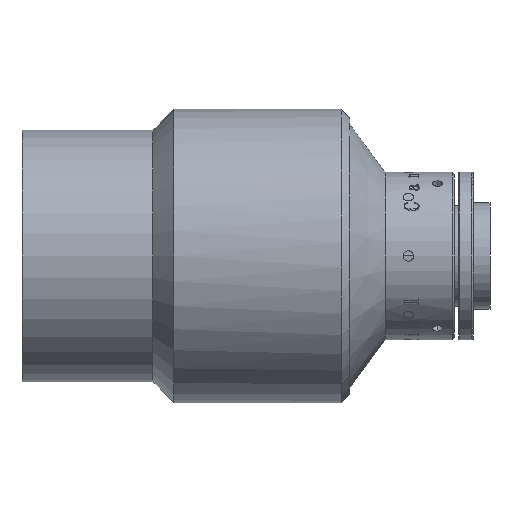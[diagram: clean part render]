
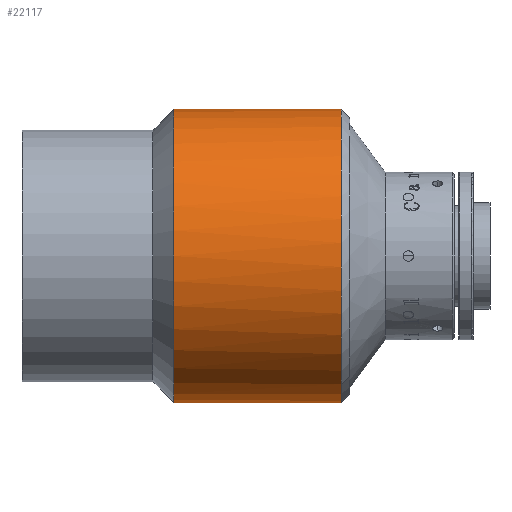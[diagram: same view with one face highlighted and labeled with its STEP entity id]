
A CAD part, front view. The second image highlights one B-rep face of the part: STEP entity #22117.
In plain terms, the highlighted cylindrical face has radius 35 mm (diameter 70 mm), a partial arc.
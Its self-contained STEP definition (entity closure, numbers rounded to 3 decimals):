
#417 = CIRCLE ( 'NONE', #29568, 35. ) ;
#4019 = CIRCLE ( 'NONE', #11865, 35. ) ;
#4592 = AXIS2_PLACEMENT_3D ( 'NONE', #9344, #26214, #11754 ) ;
#5998 = ORIENTED_EDGE ( 'NONE', *, *, #13754, .F. ) ;
#6220 = CIRCLE ( 'NONE', #4592, 35. ) ;
#6336 = VERTEX_POINT ( 'NONE', #22452 ) ;
#7451 = CARTESIAN_POINT ( 'NONE',  ( 76.239, 0., -35. ) ) ;
#7611 = VERTEX_POINT ( 'NONE', #17928 ) ;
#8532 = DIRECTION ( 'NONE',  ( -1., 0., 0. ) ) ;
#9344 = CARTESIAN_POINT ( 'NONE',  ( 76.239, 0., 0. ) ) ;
#9617 = FACE_OUTER_BOUND ( 'NONE', #30757, .T. ) ;
#9991 = VECTOR ( 'NONE', #14634, 1000. ) ;
#10040 = CARTESIAN_POINT ( 'NONE',  ( -61.601, 0., 0. ) ) ;
#10649 = AXIS2_PLACEMENT_3D ( 'NONE', #10040, #14650, #26887 ) ;
#10798 = LINE ( 'NONE', #13326, #15666 ) ;
#11038 = DIRECTION ( 'NONE',  ( -1., 0., 0. ) ) ;
#11754 = DIRECTION ( 'NONE',  ( 0., 0.487, 0.874 ) ) ;
#11865 = AXIS2_PLACEMENT_3D ( 'NONE', #23015, #8532, #25422 ) ;
#12750 = ORIENTED_EDGE ( 'NONE', *, *, #16874, .T. ) ;
#12974 = ORIENTED_EDGE ( 'NONE', *, *, #16257, .F. ) ;
#13326 = CARTESIAN_POINT ( 'NONE',  ( -61.601, 0., -35. ) ) ;
#13754 = EDGE_CURVE ( 'NONE', #6336, #19873, #417, .T. ) ;
#14176 = DIRECTION ( 'NONE',  ( -1., 0., 0. ) ) ;
#14634 = DIRECTION ( 'NONE',  ( -1., 0., 0. ) ) ;
#14650 = DIRECTION ( 'NONE',  ( -1., 0., 0. ) ) ;
#15666 = VECTOR ( 'NONE', #11038, 1000. ) ;
#15843 = VERTEX_POINT ( 'NONE', #22054 ) ;
#16257 = EDGE_CURVE ( 'NONE', #29311, #6336, #10798, .T. ) ;
#16874 = EDGE_CURVE ( 'NONE', #7611, #15843, #4019, .T. ) ;
#17133 = LINE ( 'NONE', #29118, #9991 ) ;
#17928 = CARTESIAN_POINT ( 'NONE',  ( 76.239, -17.035, -30.575 ) ) ;
#18357 = EDGE_CURVE ( 'NONE', #29311, #7611, #6220, .T. ) ;
#19331 = EDGE_CURVE ( 'NONE', #15843, #19873, #17133, .T. ) ;
#19873 = VERTEX_POINT ( 'NONE', #19880 ) ;
#19880 = CARTESIAN_POINT ( 'NONE',  ( 36.239, 0., 35. ) ) ;
#21338 = ORIENTED_EDGE ( 'NONE', *, *, #19331, .T. ) ;
#22054 = CARTESIAN_POINT ( 'NONE',  ( 76.239, 0., 35. ) ) ;
#22117 = ADVANCED_FACE ( 'NONE', ( #9617 ), #28063, .T. ) ;
#22452 = CARTESIAN_POINT ( 'NONE',  ( 36.239, 0., -35. ) ) ;
#23015 = CARTESIAN_POINT ( 'NONE',  ( 76.239, 0., 0. ) ) ;
#25422 = DIRECTION ( 'NONE',  ( 0., 0.487, 0.874 ) ) ;
#26214 = DIRECTION ( 'NONE',  ( -1., 0., 0. ) ) ;
#26462 = ORIENTED_EDGE ( 'NONE', *, *, #18357, .T. ) ;
#26887 = DIRECTION ( 'NONE',  ( 0., 0., 1. ) ) ;
#28063 = CYLINDRICAL_SURFACE ( 'NONE', #10649, 35. ) ;
#28648 = CARTESIAN_POINT ( 'NONE',  ( 36.239, 0., 0. ) ) ;
#29118 = CARTESIAN_POINT ( 'NONE',  ( -61.601, 0., 35. ) ) ;
#29311 = VERTEX_POINT ( 'NONE', #7451 ) ;
#29568 = AXIS2_PLACEMENT_3D ( 'NONE', #28648, #14176, #31054 ) ;
#30757 = EDGE_LOOP ( 'NONE', ( #12974, #26462, #12750, #21338, #5998 ) ) ;
#31054 = DIRECTION ( 'NONE',  ( 0., 0., 1. ) ) ;
